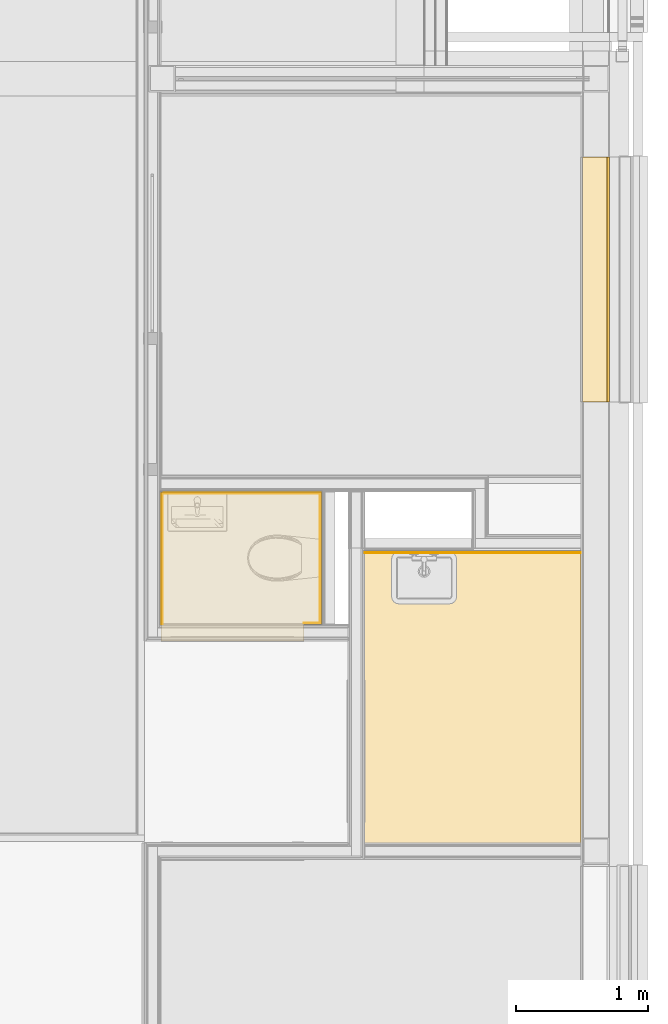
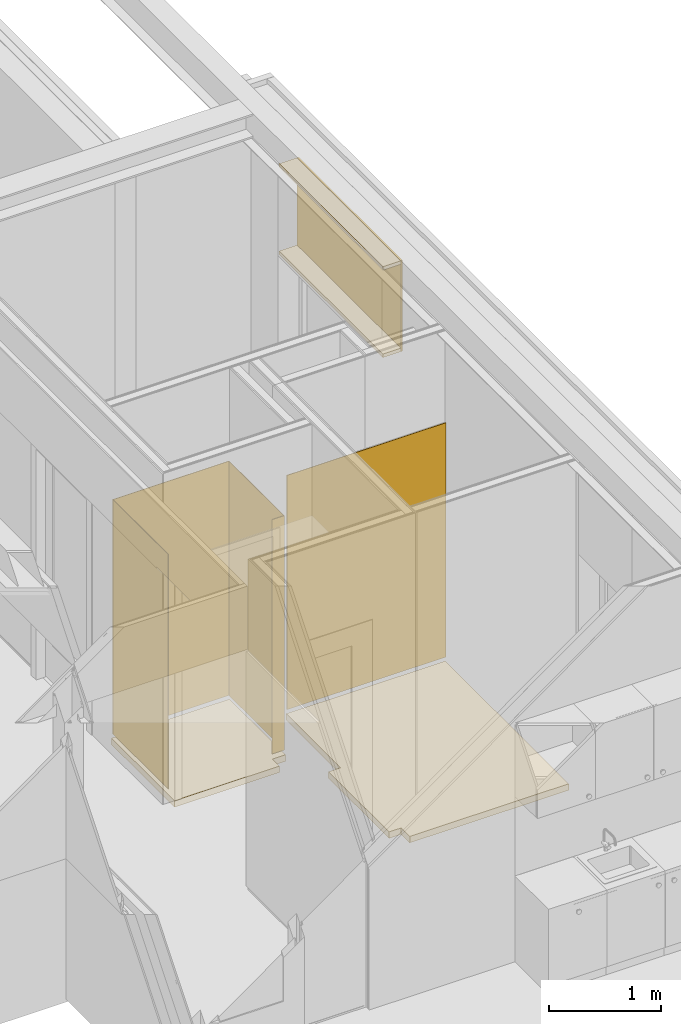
# One storey, part 104 of 137: 10 coverings, 8 elements without a shape of their own.
"""IFC2X3 building model written with IfcOpenShell, lengths in millimetres."""

from ifc_helpers import new_model, entity, si_unit, converted_unit, derived_unit, money_unit, direction, frame, origin_with_axes, place, context, subcontext, project, spatial, faceted_brep, material, type_object, element, aggregate, save


model = new_model("IFC2X3")

# Units and contexts
model_context = context("Model", 3, precision=0.01, world=origin_with_axes(), true_north=direction((0.0, 1.0)))
body_context = subcontext(model_context, "Body", "Model", "MODEL_VIEW")
ifc_project = project(units=[si_unit("LENGTHUNIT", "METRE", prefix="MILLI"), si_unit("AREAUNIT", "SQUARE_METRE"), si_unit("VOLUMEUNIT", "CUBIC_METRE"), converted_unit("PLANEANGLEUNIT", "DEGREE", entity("IfcPlaneAngleMeasure", 0.0174532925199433), si_unit("PLANEANGLEUNIT", "RADIAN"), dimensions=[0, 0, 0, 0, 0, 0, 0]), money_unit("EUR"), converted_unit("TIMEUNIT", "Year", entity("IfcTimeMeasure", 31556926.0), si_unit("TIMEUNIT", "SECOND"), dimensions=[0, 0, 1, 0, 0, 0, 0]), si_unit("MASSUNIT", "GRAM", prefix="KILO"), si_unit("THERMODYNAMICTEMPERATUREUNIT", "DEGREE_CELSIUS"), si_unit("LUMINOUSINTENSITYUNIT", "LUMEN"), si_unit("ENERGYUNIT", "JOULE", prefix="MEGA"), derived_unit("THERMALCONDUCTANCEUNIT", [(si_unit("POWERUNIT", "WATT"), 1), (si_unit("LENGTHUNIT", "METRE"), -1), (si_unit("THERMODYNAMICTEMPERATUREUNIT", "KELVIN"), -1)]), derived_unit("SPECIFICHEATCAPACITYUNIT", [(si_unit("ENERGYUNIT", "JOULE"), 1), (si_unit("MASSUNIT", "GRAM", prefix="KILO"), -1), (si_unit("THERMODYNAMICTEMPERATUREUNIT", "KELVIN"), -1)]), derived_unit("MASSDENSITYUNIT", [(si_unit("MASSUNIT", "GRAM", prefix="KILO"), 1), (si_unit("VOLUMEUNIT", "CUBIC_METRE"), -1)])], contexts=[model_context])

# Site, building, storey
site_placement = place(None, origin_with_axes())
site = spatial("IfcSite", under=ifc_project, at=site_placement, Name="Site", CompositionType="ELEMENT")
building_placement = place(site_placement, origin_with_axes())
building = spatial("IfcBuilding", under=site, at=building_placement, Name="Naam gebouw", CompositionType="ELEMENT")
storey_placement = place(building_placement, frame((0.0, 0.0, 3960.0), z_axis=(0.0, 0.0, 1.0), x_axis=(1.0, 0.0, 0.0)))
storey = spatial("IfcBuildingStorey", under=building, at=storey_placement, Name="1e verdieping", CompositionType="ELEMENT", Elevation=3960.0)

# Slab, covering
slab_type = type_object("IfcSlabType", Name="43 Zwevende dekvloer 100", PredefinedType="NOTDEFINED")
slab_1_placement = place(storey_placement, frame((26511.0000827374, 13524.99822966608, 0.0), z_axis=(0.0, 0.0, 1.0), x_axis=(1.0, 0.0, 0.0)))
slab_1 = element("IfcSlab", 1, at=slab_1_placement, inside=storey, type_object=slab_type, Name="_Vloer-x", PredefinedType="NOTDEFINED")
ifc_material_1 = material(Name="Cement - dekvloer")
covering_1_placement = place(slab_1_placement, origin_with_axes())
covering_1 = element("IfcCovering", 2, at=covering_1_placement, material=ifc_material_1, Name="Cement - dekvloer", PredefinedType="FLOORING", context=body_context, shape_type="Brep", body=[
    faceted_brep([(0.0, -1125.006641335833, -69.99999999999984), (0.0, -1125.006641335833, 0.0), (0.0, 0.0, 0.0), (0.0, 0.0, -69.99999999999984), (1079.999976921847, -1125.006641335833, -69.99999999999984), (1079.999976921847, -1125.006641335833, 0.0), (1079.999999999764, -1000.005755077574, 0.0), (1213.998066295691, -1000.005755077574, 0.0), (1213.998092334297, 0.004351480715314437, 0.0), (1213.998092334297, 0.004351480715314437, -69.99999999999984), (1213.998066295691, -1000.005755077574, -69.99999999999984), (1079.999999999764, -1000.005755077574, -69.99999999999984)], [[[0, 1, 2, 3]], [[4, 5, 1, 0]], [[2, 1, 5, 6, 7, 8]], [[3, 2, 8, 9]], [[3, 9, 10, 11, 4, 0]], [[11, 6, 5, 4]], [[10, 7, 6, 11]], [[9, 8, 7, 10]]]),
])
aggregate(slab_1, [covering_1])

slab_2_placement = place(storey_placement, frame((27924.99764555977, 12105.11407573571, 0.0), z_axis=(0.0, 0.0, 1.0), x_axis=(1.0, 0.0, 0.0)))
slab_2 = element("IfcSlab", 3, at=slab_2_placement, inside=storey, type_object=slab_type, Name="_Vloer-x", PredefinedType="NOTDEFINED")
covering_2_placement = place(slab_2_placement, origin_with_axes())
covering_2 = element("IfcCovering", 4, at=covering_2_placement, material=ifc_material_1, Name="Cement - dekvloer", PredefinedType="FLOORING", context=body_context, shape_type="Brep", body=[
    faceted_brep([(0.0, -1080.128973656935, -69.99999999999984), (0.0, -1080.128973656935, 0.0), (0.0, 0.0, 0.0), (0.0, 0.0, -69.99999999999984), (125.0, -1080.128973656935, -69.99999999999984), (125.0, -1080.128973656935, 0.0), (125.0, -1232.613965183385, 0.0), (1761.002354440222, -1232.613965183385, 0.0), (1761.002354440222, 969.8837059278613, 0.0), (125.0000044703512, 969.8837014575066, 0.0), (125.0, -0.1289736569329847, 0.0), (125.0, -0.1289736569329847, -69.99999999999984), (125.0000044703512, 969.8837014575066, -69.99999999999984), (1761.002354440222, 969.8837059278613, -69.99999999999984), (1761.002354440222, -1232.613965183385, -69.99999999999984), (125.0, -1232.613965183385, -69.99999999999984)], [[[0, 1, 2, 3]], [[4, 5, 1, 0]], [[2, 1, 5, 6, 7, 8, 9, 10]], [[3, 2, 10, 11]], [[3, 11, 12, 13, 14, 15, 4, 0]], [[15, 6, 5, 4]], [[14, 7, 6, 15]], [[13, 8, 7, 14]], [[12, 9, 8, 13]], [[11, 10, 9, 12]]]),
])
aggregate(slab_2, [covering_2])

# Proxy, covering
building_element_proxy_type = type_object("IfcBuildingElementProxyType", Name="42 Tegelwerk 2600+ 12 x 2600", PredefinedType="NOTDEFINED")
proxy_1_placement = place(storey_placement, frame((27590.99998676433, 12544.9923858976, 0.0), z_axis=(0.0, 0.0, 1.0), x_axis=(0.999999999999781, 6.618815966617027e-07, 0.0)))
proxy_1 = element("IfcBuildingElementProxy", 5, at=proxy_1_placement, inside=storey, type_object=building_element_proxy_type, Name="_Wand-x")
ifc_material_2 = material(Name="Tegels - Wand")
covering_3_placement = place(proxy_1_placement, origin_with_axes())
covering_3 = element("IfcCovering", 6, at=covering_3_placement, material=ifc_material_2, Name="Tegels - Wand", PredefinedType="NOTDEFINED", context=body_context, shape_type="Brep", body=[
    faceted_brep([(126.9981590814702, -13.00008405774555, 2600.0), (126.9981623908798, -8.000084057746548, 2600.0), (-5.295053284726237e-06, -7.999999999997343, 2600.0), (-8.604462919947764e-06, -12.99999999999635, 2600.0), (126.9981623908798, -8.000084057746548, 49.99999999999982), (126.9981590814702, -13.00008405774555, 49.99999999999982), (-5.295053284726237e-06, -7.999999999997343, 49.99999999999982), (-8.604462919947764e-06, -12.99999999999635, 49.99999999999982)], [[[0, 1, 2, 3]], [[4, 1, 0, 5]], [[1, 4, 6, 2]], [[2, 6, 7, 3]], [[5, 0, 3, 7]], [[4, 5, 7, 6]]]),
])
aggregate(proxy_1, [covering_3])

proxy_2_placement = place(storey_placement, frame((27704.99814997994, 12544.99246135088, 0.0), z_axis=(0.0, 0.0, 1.0), x_axis=(4.734245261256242e-08, 0.9999999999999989, 0.0)))
proxy_2 = element("IfcBuildingElementProxy", 7, at=proxy_2_placement, inside=storey, type_object=building_element_proxy_type, Name="_Wand-x")
covering_4_placement = place(proxy_2_placement, origin_with_axes())
covering_4 = element("IfcCovering", 8, at=covering_4_placement, material=ifc_material_2, Name="Tegels - Wand", PredefinedType="NOTDEFINED", context=body_context, shape_type="Brep", body=[
    faceted_brep([(972.999023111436, -12.99995393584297, 49.99999999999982), (972.999023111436, -12.99995393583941, 2600.0), (-8.000074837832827, -13.00000037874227, 2600.0), (-8.000074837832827, -13.00000037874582, 49.99999999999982), (972.999050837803, -7.999953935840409, 2600.0), (972.999050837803, -7.999953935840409, 49.99999999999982), (-8.00007507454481, -8.000000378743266, 2600.0), (-8.00007507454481, -8.000000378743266, 49.99999999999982)], [[[0, 1, 2, 3]], [[4, 1, 0, 5]], [[1, 4, 6, 2]], [[3, 2, 6, 7]], [[5, 0, 3, 7]], [[4, 5, 7, 6]]]),
])
aggregate(proxy_2, [covering_4])

proxy_3_placement = place(storey_placement, frame((27704.99819542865, 13504.99155208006, 0.0), z_axis=(0.0, 0.0, 1.0), x_axis=(-0.9999999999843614, 5.592615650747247e-06, 0.0)))
proxy_3 = element("IfcBuildingElementProxy", 9, at=proxy_3_placement, inside=storey, type_object=building_element_proxy_type, Name="_Wand-x")
covering_5_placement = place(proxy_3_placement, origin_with_axes())
covering_5 = element("IfcCovering", 10, at=covering_5_placement, material=ifc_material_2, Name="Tegels - Wand", PredefinedType="NOTDEFINED", context=body_context, shape_type="Brep", body=[
    faceted_brep([(1186.998272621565, -12.99999999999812, 49.99999999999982), (1186.998272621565, -12.99999999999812, 2600.0), (-7.999881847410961, -12.99999999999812, 2600.0), (-7.999881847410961, -12.99999999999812, 49.99999999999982), (1186.998244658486, -7.999999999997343, 2600.0), (1186.998244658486, -7.999999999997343, 49.99999999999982), (-7.999909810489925, -7.999999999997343, 2600.0), (-7.999909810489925, -7.999999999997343, 49.99999999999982)], [[[0, 1, 2, 3]], [[4, 1, 0, 5]], [[1, 4, 6, 2]], [[3, 2, 6, 7]], [[5, 0, 3, 7]], [[4, 5, 7, 6]]]),
])
aggregate(proxy_3, [covering_5])

proxy_4_placement = place(storey_placement, frame((26531.00000000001, 13504.99811780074, 0.0), z_axis=(0.0, 0.0, 1.0), x_axis=(0.0, -1.0, 0.0)))
proxy_4 = element("IfcBuildingElementProxy", 11, at=proxy_4_placement, inside=storey, type_object=building_element_proxy_type, Name="_Wand-x")
covering_6_placement = place(proxy_4_placement, origin_with_axes())
covering_6 = element("IfcCovering", 12, at=covering_6_placement, material=ifc_material_2, Name="Tegels - Wand", PredefinedType="NOTDEFINED", context=body_context, shape_type="Brep", body=[
    faceted_brep([(-8.000044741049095, -7.999999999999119, 49.99999999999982), (-8.000044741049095, -7.999999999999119, 2600.0), (980.0064467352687, -7.999999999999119, 2600.0), (980.0064467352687, -7.999999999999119, 49.99999999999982), (-8.000072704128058, -12.99999999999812, 2600.0), (-8.000072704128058, -13.00000000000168, 49.99999999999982), (980.0064467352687, -13.00000000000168, 2600.0), (980.0064467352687, -13.00000000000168, 49.99999999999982)], [[[0, 1, 2, 3]], [[4, 1, 0, 5]], [[1, 4, 6, 2]], [[2, 6, 7, 3]], [[5, 0, 3, 7]], [[4, 5, 7, 6]]]),
])
aggregate(proxy_4, [covering_6])

# Beam, coverings
beam_type = type_object("IfcBeamType", Name="31 HSB boven kozijnen 214 x 1000", PredefinedType="BEAM")
beam_placement = place(storey_placement, frame((29685.99999999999, 16055.99778166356, 2600.000000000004), z_axis=(0.0, 0.0, 1.0), x_axis=(-1.0, 0.0, 0.0)))
beam = element("IfcBeam", 13, at=beam_placement, inside=storey, type_object=beam_type, Name="28_Balk-x", ObjectType="BEAM")
ifc_material_3 = material(Name="Hout - Vloer")
covering_7_placement = place(beam_placement, origin_with_axes())
covering_7 = element("IfcCovering", 14, at=covering_7_placement, material=ifc_material_3, Name="Hout - Vloer", PredefinedType="NOTDEFINED", context=body_context, shape_type="Brep", body=[
    faceted_brep([(-196.000001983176, 1849.999999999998, 999.9999999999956), (-196.000001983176, 1849.999999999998, 961.9999910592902), (-196.000001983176, 0.0, 961.9999910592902), (-196.000001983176, 0.0, 999.9999999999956), (-11.99999006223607, 1849.999999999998, 999.9999999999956), (-11.99999006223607, 1849.999999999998, 962.0000059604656), (-11.99999006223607, 0.0, 962.0000059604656), (-11.99999006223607, 0.0, 999.9999999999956)], [[[0, 1, 2, 3]], [[0, 4, 5, 1]], [[1, 5, 6, 2]], [[3, 2, 6, 7]], [[4, 0, 3, 7]], [[5, 4, 7, 6]]]),
])
covering_8_placement = place(beam_placement, origin_with_axes())
covering_8 = element("IfcCovering", 15, at=covering_8_placement, material=ifc_material_3, Name="Hout - Vloer", PredefinedType="NOTDEFINED", context=body_context, shape_type="Brep", body=[
    faceted_brep([(-196.0000083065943, 1849.999999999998, 49.99999999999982), (-196.0000083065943, 1849.999999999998, 12.00000596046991), (-196.0000083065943, 0.0, 12.00000596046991), (-196.0000083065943, 0.0, 49.99999999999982), (-11.9999963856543, 1849.999999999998, 49.99999999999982), (-11.9999963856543, 1849.999999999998, 12.00000596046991), (-11.9999963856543, 0.0, 12.00000596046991), (-11.9999963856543, 0.0, 49.99999999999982)], [[[0, 1, 2, 3]], [[0, 4, 5, 1]], [[1, 5, 6, 2]], [[3, 2, 6, 7]], [[4, 0, 3, 7]], [[5, 4, 7, 6]]]),
])
ifc_material_4 = material(Name="Hout - Multiplex")
covering_9_placement = place(beam_placement, origin_with_axes())
covering_9 = element("IfcCovering", 16, at=covering_9_placement, material=ifc_material_4, Name="Hout - Multiplex", PredefinedType="NOTDEFINED", context=body_context, shape_type="Brep", body=[
    faceted_brep([(-214.0000025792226, 1849.999999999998, 999.9999999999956), (-214.0000025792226, 1849.999999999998, 11.99999999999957), (-214.0000025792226, 0.0, 11.99999999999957), (-214.0000025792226, 0.0, 999.9999999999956), (-196.000001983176, 1849.999999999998, 999.9999999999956), (-196.000001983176, 1849.999999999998, 11.99999999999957), (-196.000001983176, 0.0, 11.99999999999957), (-196.000001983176, 0.0, 999.9999999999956)], [[[0, 1, 2, 3]], [[0, 4, 5, 1]], [[1, 5, 6, 2]], [[3, 2, 6, 7]], [[4, 0, 3, 7]], [[5, 4, 7, 6]]]),
])
aggregate(beam, [covering_7, covering_8, covering_9])

# Proxy, covering
proxy_5_placement = place(storey_placement, frame((28049.99764551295, 13054.99778549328, 0.0), z_axis=(0.0, 0.0, 1.0), x_axis=(1.0, -2.340892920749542e-09, 0.0)))
proxy_5 = element("IfcBuildingElementProxy", 17, at=proxy_5_placement, inside=storey, type_object=building_element_proxy_type, Name="_Wand-x")
covering_10_placement = place(proxy_5_placement, origin_with_axes())
covering_10 = element("IfcCovering", 18, at=covering_10_placement, material=ifc_material_2, Name="Tegels - Wand", PredefinedType="NOTDEFINED", context=body_context, shape_type="Brep", body=[
    faceted_brep([(1636.002354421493, 8.000003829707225, 49.99999999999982), (1636.002354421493, 8.000003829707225, 2600.0), (-1.872990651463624e-08, 8.000000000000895, 2600.0), (-1.872990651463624e-08, 7.999999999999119, 49.99999999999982), (1636.00235440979, 13.00000382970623, 49.99999999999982), (1636.00235440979, 13.00000382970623, 2600.0), (-3.043254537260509e-08, 12.9999999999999, 2600.0), (-3.043254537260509e-08, 12.9999999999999, 49.99999999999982)], [[[0, 1, 2, 3]], [[0, 4, 5, 1]], [[1, 5, 6, 2]], [[3, 2, 6, 7]], [[4, 0, 3, 7]], [[5, 4, 7, 6]]]),
])
aggregate(proxy_5, [covering_10])

save(model, "model.ifc")
